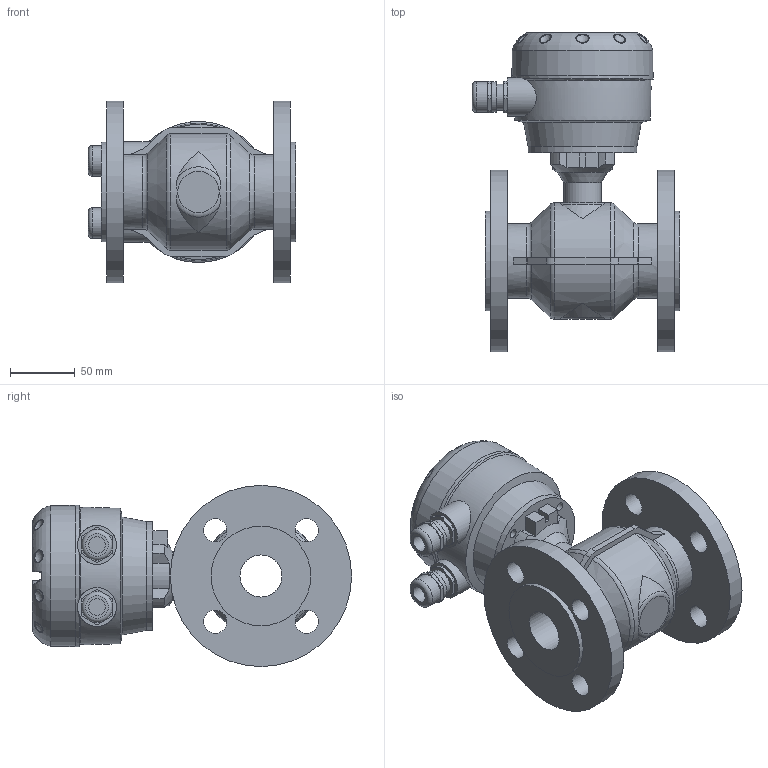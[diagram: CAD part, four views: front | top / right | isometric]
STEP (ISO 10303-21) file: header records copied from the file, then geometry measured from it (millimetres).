
FILE_DESCRIPTION (( 'STEP AP203' ), '1' );
FILE_NAME ('KROHNE_OPTIFLUX_2-4000W_DIN2635_DN32_PN40.STEP', '2011-04-26T11:25:48', ( '' ), ( '' ), 'SwSTEP 2.0', 'SolidWorks 2010', '' );
FILE_SCHEMA (( 'CONFIG_CONTROL_DESIGN' ));
Length unit declared in the file: millimetre
Products named in the file (1): KROHNE_OPTIFLUX_2-4000W_DIN2635_DN32_PN40
Bounding box: 160 x 246.49 x 140 mm (x, y, z)
Volume: 1632358.8 mm3; surface area: 221142.8 mm2
Topology: 14 solids, 18 shells, 399 faces, 968 edges, 626 vertices
Faces by surface type: plane 183, cylinder 98, bspline 53, torus 34, cone 18, sphere 13
Full cylindrical faces by diameter (mm): 4 x4, 6.6 x8, 13 x2, 18 x8, 20 x2, 23.5 x4, 29 x1, 30 x2, 32.5 x1, 57.4 x2, 77 x2, 84 x2, 109 x1, 140 x2
Entity records: 16152 total; most frequent: CARTESIAN_POINT 7381, ORIENTED_EDGE 1762, DIRECTION 1661, EDGE_CURVE 881, AXIS2_PLACEMENT_3D 615, VERTEX_POINT 607, EDGE_LOOP 532, FACE_OUTER_BOUND 457
